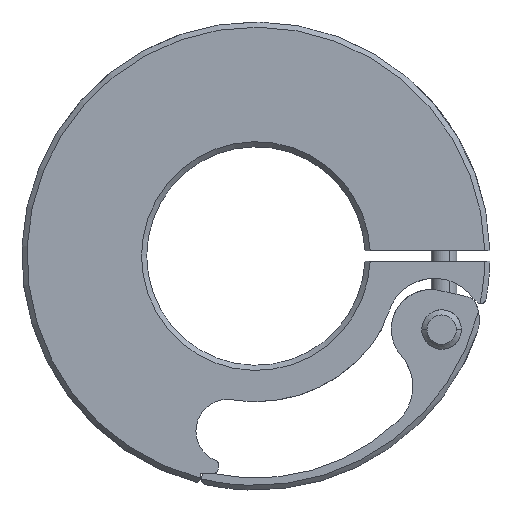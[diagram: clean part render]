
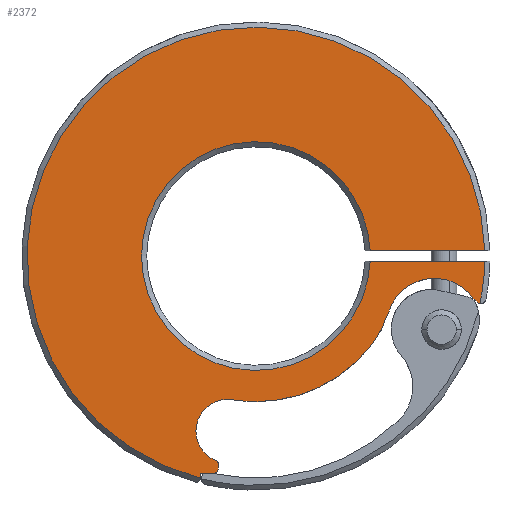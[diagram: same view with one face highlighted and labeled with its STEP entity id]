
A CAD part, front view. The second image highlights one B-rep face of the part: STEP entity #2372.
In plain terms, the highlighted planar face has unit normal (0, -1, 0).
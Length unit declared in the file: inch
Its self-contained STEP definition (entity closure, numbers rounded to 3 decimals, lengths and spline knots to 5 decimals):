
#514=CARTESIAN_POINT('',(1.125,0.,-0.44));
#515=DIRECTION('',(0.,1.,0.));
#516=DIRECTION('',(-0.958,0.,0.288));
#517=AXIS2_PLACEMENT_3D('',#514,#515,#516);
#519=CARTESIAN_POINT('',(1.14,0.,-0.53));
#520=DIRECTION('',(0.,1.,0.));
#521=DIRECTION('',(-0.976,0.,0.219));
#522=AXIS2_PLACEMENT_3D('',#519,#520,#521);
#524=CARTESIAN_POINT('',(0.,0.,0.));
#525=DIRECTION('',(0.,-1.,0.));
#526=DIRECTION('',(0.,0.,-1.));
#527=AXIS2_PLACEMENT_3D('',#524,#525,#526);
#529=CARTESIAN_POINT('',(0.,0.,0.));
#530=DIRECTION('',(0.,-1.,0.));
#531=DIRECTION('',(-0.16,0.,-0.987));
#532=AXIS2_PLACEMENT_3D('',#529,#530,#531);
#534=CARTESIAN_POINT('',(-0.17864,0.,-1.10382));
#535=DIRECTION('',(0.,1.,0.));
#536=DIRECTION('',(-0.374,0.,-0.927));
#537=AXIS2_PLACEMENT_3D('',#534,#535,#536);
#539=CARTESIAN_POINT('',(-0.26565,0.,-1.31942));
#540=DIRECTION('',(0.,-1.,0.));
#541=DIRECTION('',(0.985,0.,-0.174));
#542=AXIS2_PLACEMENT_3D('',#539,#540,#541);
#544=DIRECTION('',(0.174,0.,0.985));
#545=VECTOR('',#544,0.01836);
#546=CARTESIAN_POINT('',(-0.23683,0.,-1.34314));
#547=LINE('',#546,#545);
#548=CARTESIAN_POINT('',(-0.26884,0.,-1.3375));
#549=DIRECTION('',(0.,-1.,0.));
#550=DIRECTION('',(0.,0.,-1.));
#551=AXIS2_PLACEMENT_3D('',#548,#549,#550);
#553=DIRECTION('',(1.,0.,0.));
#554=VECTOR('',#553,0.08116);
#555=CARTESIAN_POINT('',(-0.35,0.,-1.37));
#556=LINE('',#555,#554);
#557=DIRECTION('',(0.,0.,1.));
#558=VECTOR('',#557,0.03094);
#559=CARTESIAN_POINT('',(-0.35,0.,-1.40094));
#560=LINE('',#559,#558);
#561=CARTESIAN_POINT('',(0.,0.,0.));
#562=DIRECTION('',(0.,-1.,0.));
#563=DIRECTION('',(1.,0.,0.023));
#564=AXIS2_PLACEMENT_3D('',#561,#562,#563);
#566=DIRECTION('',(1.,0.,0.));
#567=VECTOR('',#566,0.72289);
#568=CARTESIAN_POINT('',(0.72074,0.,0.0325));
#569=LINE('',#568,#567);
#570=DIRECTION('',(-1.,0.,0.));
#571=VECTOR('',#570,0.72289);
#572=CARTESIAN_POINT('',(1.44363,0.,-0.0325));
#573=LINE('',#572,#571);
#574=CARTESIAN_POINT('',(0.,0.,0.));
#575=DIRECTION('',(0.,-1.,0.));
#576=DIRECTION('',(0.978,0.,-0.207));
#577=AXIS2_PLACEMENT_3D('',#574,#575,#576);
#579=CARTESIAN_POINT('',(1.41821,0.,-0.2675));
#580=DIRECTION('',(0.,-1.,0.));
#581=DIRECTION('',(-0.727,0.,-0.686));
#582=AXIS2_PLACEMENT_3D('',#579,#580,#581);
#584=CARTESIAN_POINT('',(1.14,0.,-0.53));
#585=DIRECTION('',(0.,1.,0.));
#586=DIRECTION('',(0.653,0.,0.757));
#587=AXIS2_PLACEMENT_3D('',#584,#585,#586);
#727=CARTESIAN_POINT('',(0.,0.,0.));
#728=DIRECTION('',(0.,1.,0.));
#729=DIRECTION('',(0.999,0.,-0.045));
#730=AXIS2_PLACEMENT_3D('',#727,#728,#729);
#749=CARTESIAN_POINT('',(1.44363,0.,0.0325));
#1459=CARTESIAN_POINT('',(0.72074,0.,-0.0325));
#1460=CARTESIAN_POINT('',(0.72074,0.,0.0325));
#1461=VERTEX_POINT('',#1459);
#1462=VERTEX_POINT('',#1460);
#1464=VERTEX_POINT('',#749);
#1470=CARTESIAN_POINT('',(0.79853,0.,-0.45322));
#1471=CARTESIAN_POINT('',(0.83772,0.,-0.35357));
#1472=VERTEX_POINT('',#1470);
#1473=VERTEX_POINT('',#1471);
#1474=CARTESIAN_POINT('',(0.,0.,-0.91818));
#1475=VERTEX_POINT('',#1474);
#1476=CARTESIAN_POINT('',(-0.14669,0.,-0.90638));
#1477=VERTEX_POINT('',#1476);
#1478=CARTESIAN_POINT('',(-0.23364,0.,-1.32506));
#1479=CARTESIAN_POINT('',(-0.25349,0.,-1.28928));
#1480=VERTEX_POINT('',#1478);
#1481=VERTEX_POINT('',#1479);
#1482=CARTESIAN_POINT('',(-0.23683,0.,-1.34314));
#1483=VERTEX_POINT('',#1482);
#1484=CARTESIAN_POINT('',(-0.26884,0.,-1.37));
#1485=VERTEX_POINT('',#1484);
#1486=CARTESIAN_POINT('',(-0.35,0.,-1.37));
#1487=VERTEX_POINT('',#1486);
#1488=CARTESIAN_POINT('',(-0.35,0.,-1.40094));
#1489=VERTEX_POINT('',#1488);
#1490=CARTESIAN_POINT('',(1.44363,0.,-0.0325));
#1491=VERTEX_POINT('',#1490);
#1492=CARTESIAN_POINT('',(1.4126,0.,-0.29951));
#1493=VERTEX_POINT('',#1492);
#1494=CARTESIAN_POINT('',(1.39457,0.,-0.2898));
#1495=VERTEX_POINT('',#1494);
#1496=CARTESIAN_POINT('',(1.36872,0.,-0.26507));
#1497=VERTEX_POINT('',#1496);
#2334=CARTESIAN_POINT('',(0.,0.,0.));
#2335=DIRECTION('',(0.,1.,0.));
#2336=DIRECTION('',(0.,0.,1.));
#2337=AXIS2_PLACEMENT_3D('',#2334,#2335,#2336);
#2338=PLANE('',#2337);
#2340=ORIENTED_EDGE('',*,*,#2339,.F.);
#2342=ORIENTED_EDGE('',*,*,#2341,.F.);
#2344=ORIENTED_EDGE('',*,*,#2343,.F.);
#2346=ORIENTED_EDGE('',*,*,#2345,.F.);
#2348=ORIENTED_EDGE('',*,*,#2347,.F.);
#2350=ORIENTED_EDGE('',*,*,#2349,.F.);
#2352=ORIENTED_EDGE('',*,*,#2351,.F.);
#2354=ORIENTED_EDGE('',*,*,#2353,.F.);
#2355=ORIENTED_EDGE('',*,*,#2270,.F.);
#2356=ORIENTED_EDGE('',*,*,#2292,.F.);
#2357=ORIENTED_EDGE('',*,*,#2315,.F.);
#2359=ORIENTED_EDGE('',*,*,#2358,.F.);
#2361=ORIENTED_EDGE('',*,*,#2360,.F.);
#2363=ORIENTED_EDGE('',*,*,#2362,.F.);
#2365=ORIENTED_EDGE('',*,*,#2364,.F.);
#2367=ORIENTED_EDGE('',*,*,#2366,.F.);
#2369=ORIENTED_EDGE('',*,*,#2368,.F.);
#2370=EDGE_LOOP('',(#2340,#2342,#2344,#2346,#2348,#2350,#2352,#2354,#2355,#2356,
#2357,#2359,#2361,#2363,#2365,#2367,#2369));
#2371=FACE_OUTER_BOUND('',#2370,.F.);
#518=CIRCLE('',#517,0.3);
#523=CIRCLE('',#522,0.35);
#528=CIRCLE('',#527,0.91818);
#533=CIRCLE('',#532,0.91818);
#538=CIRCLE('',#537,0.2);
#543=CIRCLE('',#542,0.0325);
#552=CIRCLE('',#551,0.0325);
#565=CIRCLE('',#564,1.444);
#578=CIRCLE('',#577,1.444);
#583=CIRCLE('',#582,0.0325);
#588=CIRCLE('',#587,0.35);
#731=CIRCLE('',#730,0.72148);
#2270=EDGE_CURVE('',#1487,#1485,#556,.T.);
#2292=EDGE_CURVE('',#1489,#1487,#560,.T.);
#2315=EDGE_CURVE('',#1464,#1489,#565,.T.);
#2339=EDGE_CURVE('',#1473,#1497,#518,.T.);
#2341=EDGE_CURVE('',#1472,#1473,#523,.T.);
#2343=EDGE_CURVE('',#1475,#1472,#528,.T.);
#2345=EDGE_CURVE('',#1477,#1475,#533,.T.);
#2347=EDGE_CURVE('',#1481,#1477,#538,.T.);
#2349=EDGE_CURVE('',#1480,#1481,#543,.T.);
#2351=EDGE_CURVE('',#1483,#1480,#547,.T.);
#2353=EDGE_CURVE('',#1485,#1483,#552,.T.);
#2358=EDGE_CURVE('',#1462,#1464,#569,.T.);
#2360=EDGE_CURVE('',#1461,#1462,#731,.T.);
#2362=EDGE_CURVE('',#1491,#1461,#573,.T.);
#2364=EDGE_CURVE('',#1493,#1491,#578,.T.);
#2366=EDGE_CURVE('',#1495,#1493,#583,.T.);
#2368=EDGE_CURVE('',#1497,#1495,#588,.T.);
#2372=ADVANCED_FACE('',(#2371),#2338,.F.);
